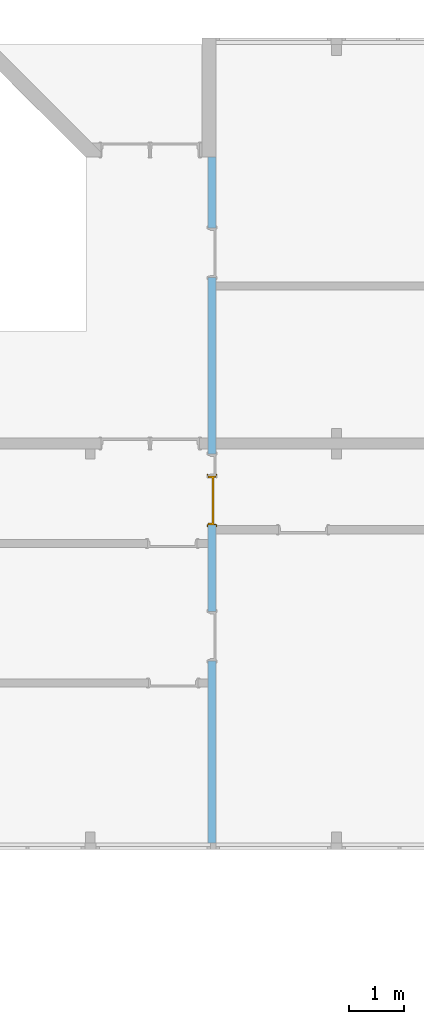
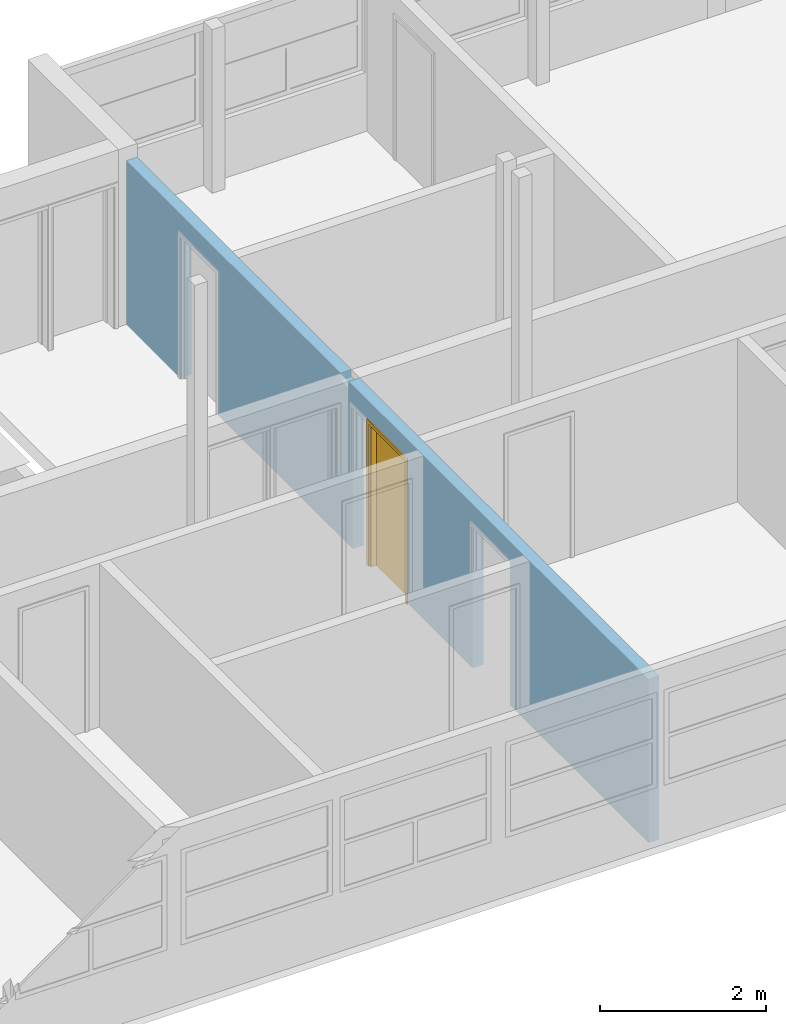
# One storey, part 12 of 48: 1 door, 4 openings, plus 1 element that does not belong to this part.
"""IFC2X3 building model written with IfcOpenShell, lengths in millimetres."""

import ifcopenshell
import ifcopenshell.guid

model = None  # the IFC model being written
_history = None  # IfcOwnerHistory: only IFC2X3 demands one
_inside = {}  # id of a spatial element -> (the spatial element, [elements in it])
_under = {}  # id of a project, library or spatial element -> (it, [spatial elements below it])
_declared = {}  # id of a project -> (the project, [libraries it declares])
_typed = {}  # id of a type object -> (the type object, [elements of that type])
_made_of = {}  # id of a material, layer set ... -> (it, [elements and type objects made of it])


def new_model(schema):
    """Start an empty IFC model of exactly this schema.

    Asked for "IFC4X3", IfcOpenShell would pick the latest addendum, in which some entities
    have other attributes; the version numbers below select the first issue.
    IFC2X3 requires an IfcOwnerHistory on every rooted entity: one is made here for all.
    """
    global model, _history
    if schema == "IFC4X3":
        model = ifcopenshell.file(schema_version=(4, 3, 0, 0))
    else:
        model = ifcopenshell.file(schema=schema)
    _inside.clear()
    _under.clear()
    _declared.clear()
    _typed.clear()
    _made_of.clear()
    _history = None
    if model.schema == "IFC2X3":
        org = make("IfcOrganization", Name="unknown")
        user = make(
            "IfcPersonAndOrganization",
            ThePerson=make("IfcPerson", FamilyName="unknown"),
            TheOrganization=org,
        )
        app = make(
            "IfcApplication",
            ApplicationDeveloper=org,
            Version="unknown",
            ApplicationFullName="unknown",
            ApplicationIdentifier="unknown",
        )
        _history = make(
            "IfcOwnerHistory",
            OwningUser=user,
            OwningApplication=app,
            ChangeAction="ADDED",
            CreationDate=0,
        )
    return model


def make(cls, **values):
    """One entity of the class cls with the attributes given. An attribute that is None is left unset."""
    return model.create_entity(
        cls, **{name: value for name, value in values.items() if value is not None}
    )


def entity(cls, *values):
    """Any entity or typed value of the class cls, its attributes in the order of the schema. None: left unset."""
    e = model.create_entity(cls)
    for i, value in enumerate(values):
        if value is not None:
            e[i] = value
    return e


def rooted(cls, **values):
    """An entity with a GlobalId (a new one), such as an element, a storey or a relation."""
    return make(cls, GlobalId=ifcopenshell.guid.new(), OwnerHistory=_history, **values)


def si_unit(unit_type, name, prefix=None):
    """IfcSIUnit, for example si_unit("LENGTHUNIT", "METRE", prefix="MILLI")."""
    return make("IfcSIUnit", UnitType=unit_type, Prefix=prefix, Name=name)


def converted_unit(unit_type, name, factor, base, dimensions=None, offset=None):
    """IfcConversionBasedUnit, such as the inch: factor (a typed value) times the base unit."""
    return make(
        "IfcConversionBasedUnit"
        if offset is None
        else "IfcConversionBasedUnitWithOffset",
        ConversionOffset=offset,
        Dimensions=None
        if dimensions is None
        else entity("IfcDimensionalExponents", *dimensions),
        UnitType=unit_type,
        Name=name,
        ConversionFactor=make(
            "IfcMeasureWithUnit", ValueComponent=factor, UnitComponent=base
        ),
    )


def derived_unit(unit_type, elements):
    """IfcDerivedUnit: a product of units, each with its exponent."""
    return make(
        "IfcDerivedUnit",
        Elements=[
            make("IfcDerivedUnitElement", Unit=unit, Exponent=power)
            for unit, power in elements
        ],
        UnitType=unit_type,
    )


def money_unit(currency):
    """IfcMonetaryUnit."""
    return make("IfcMonetaryUnit", Currency=currency)


def assignment(units):
    """IfcUnitAssignment: the units of a project."""
    return None if units is None else make("IfcUnitAssignment", Units=units)


def point(xyz):
    """IfcCartesianPoint."""
    return None if xyz is None else make("IfcCartesianPoint", Coordinates=xyz)


def direction(xyz):
    """IfcDirection."""
    return None if xyz is None else make("IfcDirection", DirectionRatios=xyz)


def frame(location, z_axis=None, x_axis=None):
    """IfcAxis2Placement3D, a coordinate frame: its origin and axes. An axis left out is left unset."""
    return make(
        "IfcAxis2Placement3D",
        Location=point(location),
        Axis=direction(z_axis),
        RefDirection=direction(x_axis),
    )


def origin_with_axes():
    """The frame at (0, 0, 0) with the z axis (0, 0, 1) and the x axis (1, 0, 0) written out."""
    return frame((0.0, 0.0, 0.0), z_axis=(0.0, 0.0, 1.0), x_axis=(1.0, 0.0, 0.0))


def place(relative_to, where):
    """IfcLocalPlacement: puts the frame where relative to a parent placement (None: the world)."""
    return make(
        "IfcLocalPlacement", PlacementRelTo=relative_to, RelativePlacement=where
    )


def context(
    kind, dimensions, precision=None, world=None, true_north=None, identifier=None
):
    """IfcGeometricRepresentationContext, for example the 3D "Model" context."""
    return make(
        "IfcGeometricRepresentationContext",
        ContextIdentifier=identifier,
        ContextType=kind,
        CoordinateSpaceDimension=dimensions,
        Precision=precision,
        WorldCoordinateSystem=world,
        TrueNorth=true_north,
    )


def subcontext(parent, identifier, kind, view, scale=None):
    """IfcGeometricRepresentationSubContext, for example "Body" below "Model"."""
    return make(
        "IfcGeometricRepresentationSubContext",
        ContextIdentifier=identifier,
        ContextType=kind,
        ParentContext=parent,
        TargetScale=scale,
        TargetView=view,
    )


def project(units=None, contexts=None):
    """IfcProject with its units and contexts."""
    return rooted(
        "IfcProject",
        Name="project",
        RepresentationContexts=contexts,
        UnitsInContext=assignment(units),
    )


def spatial(cls, under=None, at=None, **own):
    """A site, building, storey or space (cls), placed at a placement, below another one or the project."""
    s = rooted(cls, ObjectPlacement=at, **own)
    if under is not None:
        _under.setdefault(under.id(), (under, []))[1].append(s)
    return s


def faces_of(points, faces, orient=None, outer=None):
    """IfcFace entities. A face is a list of loops; a loop is a list of indices into points, from 0.

    orient and outer hold one flag for each loop. By default every Orientation is true, the
    first loop of a face is its IfcFaceOuterBound and the others are IfcFaceBound.
    """
    made = []
    for i, loops in enumerate(faces):
        bounds = []
        for j, loop in enumerate(loops):
            is_outer = j == 0 if outer is None else outer[i][j]
            bounds.append(
                make(
                    "IfcFaceOuterBound" if is_outer else "IfcFaceBound",
                    Bound=make("IfcPolyLoop", Polygon=[points[k] for k in loop]),
                    Orientation=True if orient is None else orient[i][j],
                )
            )
        made.append(make("IfcFace", Bounds=bounds))
    return made


def faceted_brep(points, faces, orient=None, outer=None, voids=None):
    """IfcFacetedBrep: a solid bounded by flat faces; with voids (closed shells), ...WithVoids."""
    shared = [point(p) for p in points]
    hull = make("IfcClosedShell", CfsFaces=faces_of(shared, faces, orient, outer))
    if voids is None:
        return make("IfcFacetedBrep", Outer=hull)
    return make(
        "IfcFacetedBrepWithVoids",
        Outer=hull,
        Voids=[
            make(cls, CfsFaces=faces_of(shared, fs, o, b)) for cls, fs, o, b in voids
        ],
    )


def shape(context_of_items, identifier, shape_type, items):
    """IfcShapeRepresentation: the items that make up one representation, for example the "Body"."""
    return make(
        "IfcShapeRepresentation",
        ContextOfItems=context_of_items,
        RepresentationIdentifier=identifier,
        RepresentationType=shape_type,
        Items=items,
    )


def material(Name=None, Category=None):
    """IfcMaterial."""
    return make("IfcMaterial", Name=Name, Category=Category)


def made_of(thing, what):
    """Note that an element or type object is made of a material, layer set ...; save() writes the relation."""
    if what is not None:
        _made_of.setdefault(what.id(), (what, []))[1].append(thing)
    return thing


def type_object(cls, material=None, **own):
    """A type object (cls), such as IfcWallType, which elements share."""
    return made_of(rooted(cls, **own), material)


def element(
    cls,
    number,
    at=None,
    inside=None,
    cuts=None,
    type_object=None,
    material=None,
    context=None,
    identifier="Body",
    shape_type=None,
    held_by="IfcProductDefinitionShape",
    body=None,
    shapes=None,
    **own,
):
    """One element of the class cls, such as IfcWall. Its Tag is "e" and its number.

    at: its placement. inside: the storey or other place that contains it. cuts: it is an
    opening in that element (IfcRelVoidsElement). A single representation is given by context,
    identifier, shape_type and body (its items); several are given by shapes. held_by: the class
    of the entity that holds the representations. save() writes the other relations.
    """
    e = rooted(cls, Tag="e%d" % number, ObjectPlacement=at, **own)
    if body is not None:
        shapes = [shape(context, identifier, shape_type, body)]
    if shapes is not None:
        e.Representation = make(held_by, Representations=shapes)
    if inside is not None:
        _inside.setdefault(inside.id(), (inside, []))[1].append(e)
    if cuts is not None:
        rooted(
            "IfcRelVoidsElement", RelatingBuildingElement=cuts, RelatedOpeningElement=e
        )
    if type_object is not None:
        _typed.setdefault(type_object.id(), (type_object, []))[1].append(e)
    return made_of(e, material)


def fill(opening, filler):
    """IfcRelFillsElement: the door or window that sits in an opening."""
    return rooted(
        "IfcRelFillsElement",
        RelatingOpeningElement=opening,
        RelatedBuildingElement=filler,
    )


def aggregate(whole, parts):
    """IfcRelAggregates: a whole, such as a stair, and the parts it consists of."""
    return rooted("IfcRelAggregates", RelatingObject=whole, RelatedObjects=parts)


def save(model, path):
    """Write the relations noted so far, then the file.

    IfcRelAggregates (storeys below a building ...), IfcRelContainedInSpatialStructure (elements
    in a storey), IfcRelDefinesByType, IfcRelAssociatesMaterial and IfcRelDeclares: one each for
    every whole, place, type object, material and project.
    """
    for whole, parts in _under.values():
        aggregate(whole, parts)
    for where, things in _inside.values():
        rooted(
            "IfcRelContainedInSpatialStructure",
            RelatedElements=things,
            RelatingStructure=where,
        )
    for kind, things in _typed.values():
        rooted("IfcRelDefinesByType", RelatedObjects=things, RelatingType=kind)
    for what, things in _made_of.values():
        rooted("IfcRelAssociatesMaterial", RelatedObjects=things, RelatingMaterial=what)
    for by, libraries in _declared.values():
        rooted("IfcRelDeclares", RelatingContext=by, RelatedDefinitions=libraries)
    model.write(path)


model = new_model("IFC2X3")

# Units and contexts
model_context = context("Model", 3, precision=0.01, world=origin_with_axes(), true_north=direction((0.0, 1.0)))
body_context = subcontext(model_context, "Body", "Model", "MODEL_VIEW")
ifc_project = project(units=[si_unit("LENGTHUNIT", "METRE", prefix="MILLI"), si_unit("AREAUNIT", "SQUARE_METRE"), si_unit("VOLUMEUNIT", "CUBIC_METRE"), converted_unit("PLANEANGLEUNIT", "DEGREE", entity("IfcPlaneAngleMeasure", 0.0174532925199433), si_unit("PLANEANGLEUNIT", "RADIAN"), dimensions=[0, 0, 0, 0, 0, 0, 0]), money_unit("USD"), converted_unit("TIMEUNIT", "Year", entity("IfcTimeMeasure", 31557600.0), si_unit("TIMEUNIT", "SECOND"), dimensions=[0, 0, 1, 0, 0, 0, 0]), si_unit("MASSUNIT", "GRAM", prefix="KILO"), si_unit("THERMODYNAMICTEMPERATUREUNIT", "DEGREE_CELSIUS"), si_unit("LUMINOUSINTENSITYUNIT", "LUMEN"), si_unit("ENERGYUNIT", "JOULE", prefix="MEGA"), derived_unit("THERMALCONDUCTANCEUNIT", [(si_unit("POWERUNIT", "WATT"), 1), (si_unit("LENGTHUNIT", "METRE"), -1), (si_unit("THERMODYNAMICTEMPERATUREUNIT", "KELVIN"), -1)]), derived_unit("SPECIFICHEATCAPACITYUNIT", [(si_unit("ENERGYUNIT", "JOULE"), 1), (si_unit("MASSUNIT", "GRAM", prefix="KILO"), -1), (si_unit("THERMODYNAMICTEMPERATUREUNIT", "KELVIN"), -1)]), derived_unit("MASSDENSITYUNIT", [(si_unit("MASSUNIT", "GRAM", prefix="KILO"), 1), (si_unit("VOLUMEUNIT", "CUBIC_METRE"), -1)])], contexts=[model_context])

# Site, building, storey
site_placement = place(None, origin_with_axes())
site = spatial("IfcSite", under=ifc_project, at=site_placement, Name="Site", CompositionType="ELEMENT")
building_placement = place(site_placement, origin_with_axes())
building = spatial("IfcBuilding", under=site, at=building_placement, Name="Building", CompositionType="ELEMENT")
storey_placement = place(building_placement, frame((0.0, 0.0, 3300.0), z_axis=(0.0, 0.0, 1.0), x_axis=(1.0, 0.0, 0.0)))
storey = spatial("IfcBuildingStorey", under=building, at=storey_placement, Name="1 ETG", CompositionType="ELEMENT", Elevation=3300.0)

# Wall, openings, door
ifc_material = material(Name="GENERIC - INTERNAL FILLER")
wall_type = type_object("IfcWallType", Name="GENERIC - INTERNAL FILLER 150", PredefinedType="NOTDEFINED")
wall_placement = place(storey_placement, frame((24800.2662126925, 19738.63460103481, 0.0), z_axis=(0.0, 0.0, 1.0), x_axis=(0.0, -1.0, 0.0)))
wall = element("IfcWall", 1, at=wall_placement, inside=storey, type_object=wall_type, material=ifc_material, Name="SW - 001", context=body_context, shape_type="Brep", body=[
    faceted_brep([(6730.403722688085, 0.0, 0.0), (6730.403722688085, 0.0, 2100.0), (5830.403722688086, 0.0, 2100.0), (5430.403722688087, 0.0, 2100.0), (5430.403722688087, 0.0, 0.0), (2199.999999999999, 0.0, 0.0), (2199.999999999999, 0.0, 2100.0), (1300.000000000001, 0.0, 2100.0), (1300.000000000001, 0.0, 0.0), (0.0, 0.0, 0.0), (0.0, 0.0, 2400.0), (5138.634601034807, 0.0, 2400.0), (5138.634601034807, 0.0, 2300.000000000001), (5338.634601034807, 0.0, 2300.000000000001), (5338.634601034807, 0.0, 2400.0), (12538.84401001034, 0.0, 2400.0), (12538.84401001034, 0.0, 0.0), (9210.496496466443, 0.0, 0.0), (9210.496496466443, 0.0, 2100.0), (8310.496496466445, 0.0, 2100.0), (8310.496496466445, 0.0, 0.0), (6730.403722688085, -150.0000000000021, 0.0), (6730.403722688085, -149.9999999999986, 2100.0), (5830.403722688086, -149.9999999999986, 2100.0), (5430.403722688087, -149.9999999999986, 2100.0), (5430.403722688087, -150.0000000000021, 0.0), (2199.999999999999, -149.9999999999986, 0.0), (2199.999999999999, -149.9999999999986, 2100.0), (1300.000000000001, -149.9999999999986, 2100.0), (1300.000000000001, -149.9999999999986, 0.0), (0.0, -149.9999999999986, 0.0), (0.0, -149.9999999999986, 2400.0), (5138.634601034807, -149.9999999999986, 2400.0), (5138.634601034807, -149.9999999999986, 2300.000000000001), (5338.634601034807, -149.9999999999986, 2300.000000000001), (5338.634601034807, -149.9999999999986, 2400.0), (12538.84427531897, -150.0000000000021, 2400.0), (12538.84427531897, -150.0000000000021, 0.0), (9210.496496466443, -150.0000000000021, 0.0), (9210.496496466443, -149.9999999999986, 2100.0), (8310.496496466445, -149.9999999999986, 2100.0), (8310.496496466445, -150.0000000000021, 0.0)], [[[0, 1, 2, 3, 4, 5, 6, 7, 8, 9, 10, 11, 12, 13, 14, 15, 16, 17, 18, 19, 20]], [[1, 0, 21, 22]], [[2, 1, 22, 23, 24, 3]], [[3, 24, 25, 4]], [[25, 26, 5, 4]], [[26, 27, 6, 5]], [[27, 28, 7, 6]], [[28, 29, 8, 7]], [[30, 9, 8, 29]], [[9, 30, 31, 10]], [[31, 32, 11, 10]], [[33, 12, 11, 32]], [[34, 13, 12, 33]], [[34, 35, 14, 13]], [[15, 14, 35, 36]], [[16, 15, 36, 37]], [[37, 38, 17, 16]], [[39, 18, 17, 38]], [[40, 19, 18, 39]], [[41, 20, 19, 40]], [[21, 0, 20, 41]], [[22, 21, 41, 40, 39, 38, 37, 36, 35, 34, 33, 32, 31, 30, 29, 28, 27, 26, 25, 24, 23]]]),
])
opening_1_placement = place(wall_placement, frame((8760.496496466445, 0.0, 0.0), z_axis=(0.0, 0.0, 1.0), x_axis=(1.0, 0.0, 0.0)))
element("IfcOpeningElement", 2, at=opening_1_placement, cuts=wall, Name="DOO - 002", context=body_context, shape_type="Brep", body=[
    faceted_brep([(-449.9999999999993, 1.000000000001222, 0.0), (-449.9999999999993, 1.000000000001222, 2100.0), (449.9999999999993, 1.000000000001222, 2100.0), (449.9999999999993, 1.000000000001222, 0.0), (-487.0000000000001, 1.000000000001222, 0.0), (-487.0000000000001, 1.000000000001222, 2137.0), (487.0000000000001, 1.000000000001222, 2137.0), (487.0000000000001, 1.000000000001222, 0.0), (-449.9999999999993, 0.0, 0.0), (449.9999999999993, 0.0, 0.0), (449.9999999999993, -149.9999999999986, 0.0), (449.9999999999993, -150.9999999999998, 0.0), (-449.9999999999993, -150.9999999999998, 0.0), (-449.9999999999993, -149.9999999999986, 0.0), (-487.0000000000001, 0.0, 0.0), (-487.0000000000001, 0.0, 2137.0), (487.0000000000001, 0.0, 2137.0), (487.0000000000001, 0.0, 0.0), (449.9999999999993, 0.0, 2100.0), (449.9999999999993, -149.9999999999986, 2100.0), (487.0000000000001, -149.9999999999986, 0.0), (487.0000000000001, -150.9999999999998, 0.0), (487.0000000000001, -150.9999999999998, 2137.0), (-487.0000000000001, -150.9999999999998, 2137.0), (-487.0000000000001, -150.9999999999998, 0.0), (-487.0000000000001, -149.9999999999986, 0.0), (-449.9999999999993, 0.0, 2100.0), (-449.9999999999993, -149.9999999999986, 2100.0), (-487.0000000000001, -149.9999999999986, 2137.0), (487.0000000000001, -149.9999999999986, 2137.0)], [[[0, 1, 2, 3]], [[2, 1, 0, 4, 5, 6, 7, 3]], [[8, 0, 3, 9, 10, 11, 12, 13]], [[0, 8, 14, 4]], [[14, 15, 5, 4]], [[15, 16, 6, 5]], [[16, 17, 7, 6]], [[9, 3, 7, 17]], [[9, 18, 19, 10]], [[11, 10, 20, 21]], [[12, 11, 21, 22, 23, 24]], [[13, 12, 24, 25]], [[26, 8, 13, 27]], [[8, 26, 18, 9, 17, 16, 15, 14]], [[18, 26, 27, 19]], [[19, 27, 13, 25, 28, 29, 20, 10]], [[20, 29, 22, 21]], [[29, 28, 23, 22]], [[28, 25, 24, 23]]]),
])
opening_2_placement = place(wall_placement, frame((1750.0, 0.0, 0.0), z_axis=(0.0, 0.0, 1.0), x_axis=(1.0, 0.0, 0.0)))
element("IfcOpeningElement", 3, at=opening_2_placement, cuts=wall, Name="DOO - 002", context=body_context, shape_type="Brep", body=[
    faceted_brep([(-449.9999999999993, 1.000000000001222, 0.0), (-449.9999999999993, 1.000000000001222, 2100.0), (449.9999999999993, 1.000000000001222, 2100.0), (449.9999999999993, 1.000000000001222, 0.0), (-486.9999999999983, 1.000000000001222, 0.0), (-486.9999999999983, 1.000000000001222, 2137.0), (486.9999999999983, 1.000000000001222, 2137.0), (486.9999999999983, 1.000000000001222, 0.0), (-449.9999999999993, 0.0, 0.0), (449.9999999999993, 0.0, 0.0), (449.9999999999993, -149.9999999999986, 0.0), (449.9999999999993, -150.9999999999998, 0.0), (-449.9999999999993, -150.9999999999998, 0.0), (-449.9999999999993, -149.9999999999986, 0.0), (-486.9999999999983, 0.0, 0.0), (-486.9999999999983, 0.0, 2137.0), (486.9999999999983, 0.0, 2137.0), (486.9999999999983, 0.0, 0.0), (449.9999999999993, 0.0, 2100.0), (449.9999999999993, -149.9999999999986, 2100.0), (486.9999999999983, -149.9999999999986, 0.0), (486.9999999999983, -150.9999999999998, 0.0), (486.9999999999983, -150.9999999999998, 2137.0), (-486.9999999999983, -150.9999999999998, 2137.0), (-486.9999999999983, -150.9999999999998, 0.0), (-486.9999999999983, -149.9999999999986, 0.0), (-449.9999999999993, 0.0, 2100.0), (-449.9999999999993, -149.9999999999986, 2100.0), (-486.9999999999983, -149.9999999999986, 2137.0), (486.9999999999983, -149.9999999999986, 2137.0)], [[[0, 1, 2, 3]], [[2, 1, 0, 4, 5, 6, 7, 3]], [[8, 0, 3, 9, 10, 11, 12, 13]], [[0, 8, 14, 4]], [[14, 15, 5, 4]], [[15, 16, 6, 5]], [[16, 17, 7, 6]], [[9, 3, 7, 17]], [[9, 18, 19, 10]], [[11, 10, 20, 21]], [[12, 11, 21, 22, 23, 24]], [[13, 12, 24, 25]], [[26, 8, 13, 27]], [[8, 26, 18, 9, 17, 16, 15, 14]], [[18, 26, 27, 19]], [[19, 27, 13, 25, 28, 29, 20, 10]], [[20, 29, 22, 21]], [[29, 28, 23, 22]], [[28, 25, 24, 23]]]),
])
opening_3_placement = place(wall_placement, frame((5630.403722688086, 0.0, 0.0), z_axis=(0.0, 0.0, 1.0), x_axis=(1.0, 0.0, 0.0)))
element("IfcOpeningElement", 4, at=opening_3_placement, cuts=wall, Name="DOO - 002", context=body_context, shape_type="Brep", body=[
    faceted_brep([(-199.9999999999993, 1.000000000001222, 0.0), (-199.9999999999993, 1.000000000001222, 2100.0), (199.9999999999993, 1.000000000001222, 2100.0), (199.9999999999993, 1.000000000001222, 0.0), (-236.9999999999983, 1.000000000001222, 0.0), (-236.9999999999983, 1.000000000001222, 2137.0), (236.9999999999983, 1.000000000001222, 2137.0), (236.9999999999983, 1.000000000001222, 0.0), (-199.9999999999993, 0.0, 0.0), (199.9999999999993, 0.0, 0.0), (199.9999999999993, -149.9999999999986, 0.0), (199.9999999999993, -150.9999999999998, 0.0), (-199.9999999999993, -150.9999999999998, 0.0), (-199.9999999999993, -149.9999999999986, 0.0), (-236.9999999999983, 0.0, 0.0), (-236.9999999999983, 0.0, 2137.0), (236.9999999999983, 0.0, 2137.0), (236.9999999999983, 0.0, 0.0), (199.9999999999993, 0.0, 2100.0), (199.9999999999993, -149.9999999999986, 2100.0), (236.9999999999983, -149.9999999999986, 0.0), (236.9999999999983, -150.9999999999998, 0.0), (236.9999999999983, -150.9999999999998, 2137.0), (-236.9999999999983, -150.9999999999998, 2137.0), (-236.9999999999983, -150.9999999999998, 0.0), (-236.9999999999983, -149.9999999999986, 0.0), (-199.9999999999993, 0.0, 2100.0), (-199.9999999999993, -149.9999999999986, 2100.0), (-236.9999999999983, -149.9999999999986, 2137.0), (236.9999999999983, -149.9999999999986, 2137.0)], [[[0, 1, 2, 3]], [[2, 1, 0, 4, 5, 6, 7, 3]], [[8, 0, 3, 9, 10, 11, 12, 13]], [[0, 8, 14, 4]], [[14, 15, 5, 4]], [[15, 16, 6, 5]], [[16, 17, 7, 6]], [[9, 3, 7, 17]], [[9, 18, 19, 10]], [[11, 10, 20, 21]], [[12, 11, 21, 22, 23, 24]], [[13, 12, 24, 25]], [[26, 8, 13, 27]], [[8, 26, 18, 9, 17, 16, 15, 14]], [[18, 26, 27, 19]], [[19, 27, 13, 25, 28, 29, 20, 10]], [[20, 29, 22, 21]], [[29, 28, 23, 22]], [[28, 25, 24, 23]]]),
])
opening_4_placement = place(wall_placement, frame((6280.403722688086, 0.0, 0.0), z_axis=(0.0, 0.0, 1.0), x_axis=(1.0, 0.0, 0.0)))
opening_4 = element("IfcOpeningElement", 5, at=opening_4_placement, cuts=wall, Name="DOO - 002", context=body_context, shape_type="Brep", body=[
    faceted_brep([(-449.9999999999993, -149.9999999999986, 0.0), (-449.9999999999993, -149.9999999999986, 2100.0), (-449.9999999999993, 0.0, 2100.0), (-449.9999999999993, 0.0, 0.0), (449.9999999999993, -149.9999999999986, 2100.0), (-487.0000000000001, -149.9999999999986, 0.0), (-487.0000000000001, -149.9999999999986, 2137.0), (487.0000000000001, -149.9999999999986, 2137.0), (487.0000000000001, -149.9999999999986, 0.0), (449.9999999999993, -149.9999999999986, 0.0), (449.9999999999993, 0.0, 2100.0), (449.9999999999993, 0.0, 0.0), (487.0000000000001, 0.0, 0.0), (487.0000000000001, 0.0, 2137.0), (-487.0000000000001, 0.0, 2137.0), (-487.0000000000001, 0.0, 0.0), (-449.9999999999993, -150.9999999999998, 0.0), (-449.9999999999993, 1.000000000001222, 0.0), (449.9999999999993, 1.000000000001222, 0.0), (449.9999999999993, -150.9999999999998, 0.0), (-487.0000000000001, -150.9999999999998, 0.0), (-487.0000000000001, -150.9999999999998, 2137.0), (487.0000000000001, -150.9999999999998, 2137.0), (487.0000000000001, -150.9999999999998, 0.0), (487.0000000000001, 1.000000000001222, 0.0), (487.0000000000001, 1.000000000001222, 2137.0), (-487.0000000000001, 1.000000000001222, 2137.0), (-487.0000000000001, 1.000000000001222, 0.0), (-449.9999999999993, -150.9999999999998, 2100.0), (449.9999999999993, -150.9999999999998, 2100.0)], [[[0, 1, 2, 3]], [[4, 1, 0, 5, 6, 7, 8, 9]], [[1, 4, 10, 2]], [[3, 2, 10, 11, 12, 13, 14, 15]], [[16, 0, 3, 17, 18, 11, 9, 19]], [[0, 16, 20, 5]], [[6, 5, 20, 21]], [[7, 6, 21, 22]], [[8, 7, 22, 23]], [[19, 9, 8, 23]], [[4, 9, 11, 10]], [[11, 18, 24, 12]], [[13, 12, 24, 25]], [[14, 13, 25, 26]], [[15, 14, 26, 27]], [[17, 3, 15, 27]], [[17, 27, 26, 25, 24, 18]], [[28, 16, 19, 29]], [[16, 28, 29, 19, 23, 22, 21, 20]]]),
])
door_style = type_object("IfcDoorStyle", Name="Dør", ConstructionType="NOTDEFINED", OperationType="SINGLE_SWING_RIGHT", ParameterTakesPrecedence=False, Sizeable=False)
door_placement = place(opening_4_placement, frame((-449.9999999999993, 0.0, 0.0), z_axis=(0.0, 0.0, 1.0), x_axis=(1.0, 0.0, 0.0)))
door = element("IfcDoor", 6, at=door_placement, inside=storey, type_object=door_style, Name="DOO - 002", ObjectType="DOOR", OverallHeight=2100.0, OverallWidth=900.0, context=body_context, shape_type="Brep", body=[
    faceted_brep([(0.0, -35.00000000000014, 0.0), (0.0, 0.0, 0.0), (24.99999999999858, 0.0, 0.0), (24.99999999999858, -35.00000000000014, 0.0), (0.0, -35.00000000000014, 2100.0), (0.0, 0.0, 2100.0), (24.99999999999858, 0.0, 2075.0), (24.99999999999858, -35.00000000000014, 2075.0)], [[[0, 1, 2, 3]], [[4, 5, 1, 0]], [[1, 5, 6, 2]], [[3, 2, 6, 7]], [[0, 3, 7, 4]], [[7, 6, 5, 4]]]),
    faceted_brep([(899.9999999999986, -35.00000000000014, 2100.0), (899.9999999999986, 0.0, 2100.0), (875.0, 0.0, 2075.0), (875.0, -35.00000000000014, 2075.0), (899.9999999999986, -35.00000000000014, 0.0), (899.9999999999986, 0.0, 0.0), (875.0, 0.0, 0.0), (875.0, -35.00000000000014, 0.0)], [[[0, 1, 2, 3]], [[4, 5, 1, 0]], [[1, 5, 6, 2]], [[3, 2, 6, 7]], [[0, 3, 7, 4]], [[7, 6, 5, 4]]]),
    faceted_brep([(24.99999999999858, -35.00000000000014, 2075.0), (24.99999999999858, 0.0, 2075.0), (875.0, 0.0, 2075.0), (875.0, -35.00000000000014, 2075.0), (0.0, -35.00000000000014, 2100.0), (0.0, 0.0, 2100.0), (899.9999999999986, 0.0, 2100.0), (899.9999999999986, -35.00000000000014, 2100.0)], [[[0, 1, 2, 3]], [[4, 5, 1, 0]], [[1, 5, 6, 2]], [[3, 2, 6, 7]], [[0, 3, 7, 4]], [[7, 6, 5, 4]]]),
    faceted_brep([(-37.00000000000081, 18.99999999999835, 0.0), (12.9999999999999, 18.99999999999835, 0.0), (12.9999999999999, 0.0, 0.0), (-37.00000000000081, 0.0, 0.0), (-37.00000000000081, 19.0000000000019, 2137.0), (12.9999999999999, 19.0000000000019, 2087.0), (12.9999999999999, 0.0, 2087.0), (-37.00000000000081, 0.0, 2137.0)], [[[0, 1, 2, 3]], [[0, 4, 5, 1]], [[1, 5, 6, 2]], [[3, 2, 6, 7]], [[4, 0, 3, 7]], [[5, 4, 7, 6]]]),
    faceted_brep([(936.9999999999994, 19.0000000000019, 2137.0), (886.9999999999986, 19.0000000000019, 2087.0), (886.9999999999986, 0.0, 2087.0), (936.9999999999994, 0.0, 2137.0), (936.9999999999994, 18.99999999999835, 0.0), (886.9999999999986, 18.99999999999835, 0.0), (886.9999999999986, 0.0, 0.0), (936.9999999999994, 0.0, 0.0)], [[[0, 1, 2, 3]], [[0, 4, 5, 1]], [[1, 5, 6, 2]], [[3, 2, 6, 7]], [[4, 0, 3, 7]], [[5, 4, 7, 6]]]),
    faceted_brep([(-37.00000000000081, 19.0000000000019, 2137.0), (12.9999999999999, 19.0000000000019, 2087.0), (12.9999999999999, 0.0, 2087.0), (-37.00000000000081, 0.0, 2137.0), (936.9999999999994, 19.0000000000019, 2137.0), (886.9999999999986, 19.0000000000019, 2087.0), (886.9999999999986, 0.0, 2087.0), (936.9999999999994, 0.0, 2137.0)], [[[0, 1, 2, 3]], [[0, 4, 5, 1]], [[1, 5, 6, 2]], [[3, 2, 6, 7]], [[4, 0, 3, 7]], [[5, 4, 7, 6]]]),
    faceted_brep([(-37.00000000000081, -169.0000000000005, 0.0), (-37.00000000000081, -149.9999999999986, 0.0), (12.9999999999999, -149.9999999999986, 0.0), (12.9999999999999, -169.0000000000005, 0.0), (-37.00000000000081, -169.0000000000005, 2137.0), (-37.00000000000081, -149.9999999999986, 2137.0), (12.9999999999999, -149.9999999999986, 2087.0), (12.9999999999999, -169.0000000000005, 2087.0)], [[[0, 1, 2, 3]], [[4, 5, 1, 0]], [[1, 5, 6, 2]], [[3, 2, 6, 7]], [[0, 3, 7, 4]], [[7, 6, 5, 4]]]),
    faceted_brep([(936.9999999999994, -169.0000000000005, 2137.0), (936.9999999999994, -149.9999999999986, 2137.0), (886.9999999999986, -149.9999999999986, 2087.0), (886.9999999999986, -169.0000000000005, 2087.0), (936.9999999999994, -169.0000000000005, 0.0), (936.9999999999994, -149.9999999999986, 0.0), (886.9999999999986, -149.9999999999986, 0.0), (886.9999999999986, -169.0000000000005, 0.0)], [[[0, 1, 2, 3]], [[4, 5, 1, 0]], [[1, 5, 6, 2]], [[3, 2, 6, 7]], [[0, 3, 7, 4]], [[7, 6, 5, 4]]]),
    faceted_brep([(-37.00000000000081, -169.0000000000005, 2137.0), (-37.00000000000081, -149.9999999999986, 2137.0), (12.9999999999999, -149.9999999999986, 2087.0), (12.9999999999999, -169.0000000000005, 2087.0), (936.9999999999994, -169.0000000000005, 2137.0), (936.9999999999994, -149.9999999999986, 2137.0), (886.9999999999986, -149.9999999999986, 2087.0), (886.9999999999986, -169.0000000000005, 2087.0)], [[[0, 1, 2, 3]], [[4, 5, 1, 0]], [[1, 5, 6, 2]], [[3, 2, 6, 7]], [[0, 3, 7, 4]], [[7, 6, 5, 4]]]),
    faceted_brep([(0.0, -35.00000000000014, 0.0), (39.99999999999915, -35.00000000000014, 0.0), (39.99999999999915, -149.9999999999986, 0.0), (0.0, -149.9999999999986, 0.0), (0.0, -35.00000000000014, 2060.0), (39.99999999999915, -35.00000000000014, 2060.0), (39.99999999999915, -149.9999999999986, 2060.0), (0.0, -149.9999999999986, 2060.0)], [[[0, 1, 2, 3]], [[0, 4, 5, 1]], [[1, 5, 6, 2]], [[3, 2, 6, 7]], [[4, 0, 3, 7]], [[5, 4, 7, 6]]]),
    faceted_brep([(899.9999999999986, -35.00000000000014, 0.0), (899.9999999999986, -35.00000000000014, 2060.0), (899.9999999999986, -149.9999999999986, 2060.0), (899.9999999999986, -149.9999999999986, 0.0), (859.9999999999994, -35.00000000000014, 0.0), (859.9999999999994, -35.00000000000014, 2060.0), (859.9999999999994, -149.9999999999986, 2060.0), (859.9999999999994, -149.9999999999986, 0.0)], [[[0, 1, 2, 3]], [[0, 4, 5, 1]], [[1, 5, 6, 2]], [[3, 2, 6, 7]], [[4, 0, 3, 7]], [[5, 4, 7, 6]]]),
    faceted_brep([(0.0, -35.00000000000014, 2100.0), (0.0, -35.00000000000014, 2060.0), (0.0, -149.9999999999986, 2060.0), (0.0, -149.9999999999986, 2100.0), (899.9999999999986, -35.00000000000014, 2100.0), (899.9999999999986, -35.00000000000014, 2060.0), (859.9999999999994, -35.00000000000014, 2060.0), (39.99999999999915, -35.00000000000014, 2060.0), (39.99999999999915, -149.9999999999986, 2060.0), (859.9999999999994, -149.9999999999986, 2060.0), (899.9999999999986, -149.9999999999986, 2060.0), (899.9999999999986, -149.9999999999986, 2100.0)], [[[0, 1, 2, 3]], [[0, 4, 5, 6, 7, 1]], [[1, 7, 8, 2]], [[3, 2, 8, 9, 10, 11]], [[4, 0, 3, 11]], [[5, 4, 11, 10]], [[6, 5, 10, 9]], [[7, 6, 9, 8]]]),
    faceted_brep([(859.9999999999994, -35.00000000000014, 0.0), (859.9999999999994, -74.99999999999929, 0.0), (39.99999999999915, -74.99999999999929, 0.0), (39.99999999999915, -35.00000000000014, 0.0), (859.9999999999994, -35.00000000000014, 2060.0), (859.9999999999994, -74.99999999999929, 2060.0), (39.99999999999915, -74.99999999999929, 2060.0), (39.99999999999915, -35.00000000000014, 2060.0)], [[[0, 1, 2, 3]], [[4, 5, 1, 0]], [[1, 5, 6, 2]], [[3, 2, 6, 7]], [[0, 3, 7, 4]], [[7, 6, 5, 4]]]),
])
fill(opening_4, door)

save(model, "model.ifc")
